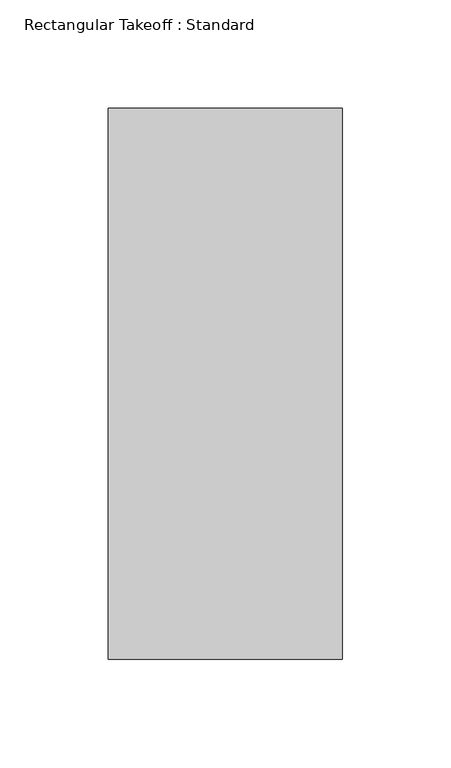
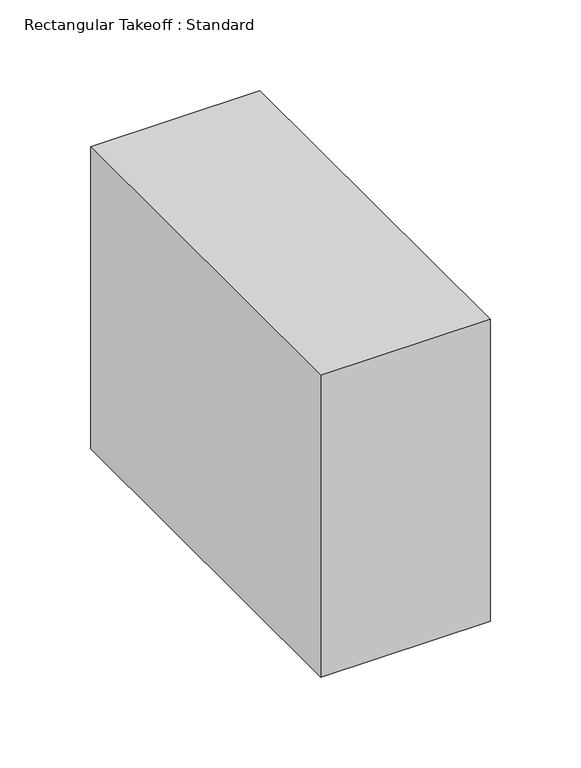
"""IFC4 building model written with IfcOpenShell, lengths in millimetres: duct fitting geometry, Rectangular Takeoff : Standard."""

import ifcopenshell
import ifcopenshell.guid

model = None  # the IFC model being written
_history = None  # IfcOwnerHistory: only IFC2X3 demands one
_inside = {}  # id of a spatial element -> (the spatial element, [elements in it])
_under = {}  # id of a project, library or spatial element -> (it, [spatial elements below it])
_declared = {}  # id of a project -> (the project, [libraries it declares])
_typed = {}  # id of a type object -> (the type object, [elements of that type])
_made_of = {}  # id of a material, layer set ... -> (it, [elements and type objects made of it])


def new_model(schema):
    """Start an empty IFC model of exactly this schema.

    Asked for "IFC4X3", IfcOpenShell would pick the latest addendum, in which some entities
    have other attributes; the version numbers below select the first issue.
    IFC2X3 requires an IfcOwnerHistory on every rooted entity: one is made here for all.
    """
    global model, _history
    if schema == "IFC4X3":
        model = ifcopenshell.file(schema_version=(4, 3, 0, 0))
    else:
        model = ifcopenshell.file(schema=schema)
    _inside.clear()
    _under.clear()
    _declared.clear()
    _typed.clear()
    _made_of.clear()
    _history = None
    if model.schema == "IFC2X3":
        org = make("IfcOrganization", Name="unknown")
        user = make(
            "IfcPersonAndOrganization",
            ThePerson=make("IfcPerson", FamilyName="unknown"),
            TheOrganization=org,
        )
        app = make(
            "IfcApplication",
            ApplicationDeveloper=org,
            Version="unknown",
            ApplicationFullName="unknown",
            ApplicationIdentifier="unknown",
        )
        _history = make(
            "IfcOwnerHistory",
            OwningUser=user,
            OwningApplication=app,
            ChangeAction="ADDED",
            CreationDate=0,
        )
    return model


def make(cls, **values):
    """One entity of the class cls with the attributes given. An attribute that is None is left unset."""
    return model.create_entity(
        cls, **{name: value for name, value in values.items() if value is not None}
    )


def rooted(cls, **values):
    """An entity with a GlobalId (a new one), such as an element, a storey or a relation."""
    return make(cls, GlobalId=ifcopenshell.guid.new(), OwnerHistory=_history, **values)


def si_unit(unit_type, name, prefix=None):
    """IfcSIUnit, for example si_unit("LENGTHUNIT", "METRE", prefix="MILLI")."""
    return make("IfcSIUnit", UnitType=unit_type, Prefix=prefix, Name=name)


def assignment(units):
    """IfcUnitAssignment: the units of a project."""
    return None if units is None else make("IfcUnitAssignment", Units=units)


def point(xyz):
    """IfcCartesianPoint."""
    return None if xyz is None else make("IfcCartesianPoint", Coordinates=xyz)


def direction(xyz):
    """IfcDirection."""
    return None if xyz is None else make("IfcDirection", DirectionRatios=xyz)


def frame(location, z_axis=None, x_axis=None):
    """IfcAxis2Placement3D, a coordinate frame: its origin and axes. An axis left out is left unset."""
    return make(
        "IfcAxis2Placement3D",
        Location=point(location),
        Axis=direction(z_axis),
        RefDirection=direction(x_axis),
    )


def origin():
    """The frame at (0, 0, 0) with its axes left unset."""
    return frame((0.0, 0.0, 0.0))


def place(relative_to, where):
    """IfcLocalPlacement: puts the frame where relative to a parent placement (None: the world)."""
    return make(
        "IfcLocalPlacement", PlacementRelTo=relative_to, RelativePlacement=where
    )


def context(
    kind, dimensions, precision=None, world=None, true_north=None, identifier=None
):
    """IfcGeometricRepresentationContext, for example the 3D "Model" context."""
    return make(
        "IfcGeometricRepresentationContext",
        ContextIdentifier=identifier,
        ContextType=kind,
        CoordinateSpaceDimension=dimensions,
        Precision=precision,
        WorldCoordinateSystem=world,
        TrueNorth=true_north,
    )


def project(units=None, contexts=None):
    """IfcProject with its units and contexts."""
    return rooted(
        "IfcProject",
        Name="project",
        RepresentationContexts=contexts,
        UnitsInContext=assignment(units),
    )


def spatial(cls, under=None, at=None, **own):
    """A site, building, storey or space (cls), placed at a placement, below another one or the project."""
    s = rooted(cls, ObjectPlacement=at, **own)
    if under is not None:
        _under.setdefault(under.id(), (under, []))[1].append(s)
    return s


def polyline(points):
    """IfcPolyline through the points."""
    return make("IfcPolyline", Points=[point(p) for p in points])


def outline(outer, holes=None, kind="AREA"):
    """IfcArbitraryClosedProfileDef: a profile drawn as a closed curve; with holes, ...WithVoids."""
    if holes is None:
        return make("IfcArbitraryClosedProfileDef", ProfileType=kind, OuterCurve=outer)
    return make(
        "IfcArbitraryProfileDefWithVoids",
        ProfileType=kind,
        OuterCurve=outer,
        InnerCurves=holes,
    )


def extrude(swept, where, along, depth):
    """IfcExtrudedAreaSolid: the profile swept, set in the frame where, extruded along a direction by depth."""
    return make(
        "IfcExtrudedAreaSolid",
        SweptArea=swept,
        Position=where,
        ExtrudedDirection=direction(along),
        Depth=depth,
    )


def shape(context_of_items, identifier, shape_type, items):
    """IfcShapeRepresentation: the items that make up one representation, for example the "Body"."""
    return make(
        "IfcShapeRepresentation",
        ContextOfItems=context_of_items,
        RepresentationIdentifier=identifier,
        RepresentationType=shape_type,
        Items=items,
    )


def source(mapping_origin, context_of_items, identifier, shape_type, items):
    """IfcRepresentationMap: a shape defined once, which mapped items show again and again."""
    return make(
        "IfcRepresentationMap",
        MappingOrigin=mapping_origin,
        MappedRepresentation=shape(context_of_items, identifier, shape_type, items),
    )


def transform(
    local_origin,
    x_axis=None,
    y_axis=None,
    z_axis=None,
    scale=None,
    scale2=None,
    scale3=None,
    uniform=True,
):
    """IfcCartesianTransformationOperator3D, or its non-uniform kind. x_axis, y_axis, z_axis: its Axis1, 2, 3."""
    if uniform:
        return make(
            "IfcCartesianTransformationOperator3D",
            Axis1=direction(x_axis),
            Axis2=direction(y_axis),
            LocalOrigin=point(local_origin),
            Scale=scale,
            Axis3=direction(z_axis),
        )
    return make(
        "IfcCartesianTransformationOperator3DnonUniform",
        Axis1=direction(x_axis),
        Axis2=direction(y_axis),
        LocalOrigin=point(local_origin),
        Scale=scale,
        Axis3=direction(z_axis),
        Scale2=scale2,
        Scale3=scale3,
    )


def mapped(mapping_source, mapping_target):
    """IfcMappedItem: shows the shape of a source again, moved by a transform."""
    return make(
        "IfcMappedItem", MappingSource=mapping_source, MappingTarget=mapping_target
    )


def made_of(thing, what):
    """Note that an element or type object is made of a material, layer set ...; save() writes the relation."""
    if what is not None:
        _made_of.setdefault(what.id(), (what, []))[1].append(thing)
    return thing


def element(
    cls,
    number,
    at=None,
    inside=None,
    cuts=None,
    type_object=None,
    material=None,
    context=None,
    identifier="Body",
    shape_type=None,
    held_by="IfcProductDefinitionShape",
    body=None,
    shapes=None,
    **own,
):
    """One element of the class cls, such as IfcWall. Its Tag is "e" and its number.

    at: its placement. inside: the storey or other place that contains it. cuts: it is an
    opening in that element (IfcRelVoidsElement). A single representation is given by context,
    identifier, shape_type and body (its items); several are given by shapes. held_by: the class
    of the entity that holds the representations. save() writes the other relations.
    """
    e = rooted(cls, Tag="e%d" % number, ObjectPlacement=at, **own)
    if body is not None:
        shapes = [shape(context, identifier, shape_type, body)]
    if shapes is not None:
        e.Representation = make(held_by, Representations=shapes)
    if inside is not None:
        _inside.setdefault(inside.id(), (inside, []))[1].append(e)
    if cuts is not None:
        rooted(
            "IfcRelVoidsElement", RelatingBuildingElement=cuts, RelatedOpeningElement=e
        )
    if type_object is not None:
        _typed.setdefault(type_object.id(), (type_object, []))[1].append(e)
    return made_of(e, material)


def aggregate(whole, parts):
    """IfcRelAggregates: a whole, such as a stair, and the parts it consists of."""
    return rooted("IfcRelAggregates", RelatingObject=whole, RelatedObjects=parts)


def save(model, path):
    """Write the relations noted so far, then the file.

    IfcRelAggregates (storeys below a building ...), IfcRelContainedInSpatialStructure (elements
    in a storey), IfcRelDefinesByType, IfcRelAssociatesMaterial and IfcRelDeclares: one each for
    every whole, place, type object, material and project.
    """
    for whole, parts in _under.values():
        aggregate(whole, parts)
    for where, things in _inside.values():
        rooted(
            "IfcRelContainedInSpatialStructure",
            RelatedElements=things,
            RelatingStructure=where,
        )
    for kind, things in _typed.values():
        rooted("IfcRelDefinesByType", RelatedObjects=things, RelatingType=kind)
    for what, things in _made_of.values():
        rooted("IfcRelAssociatesMaterial", RelatedObjects=things, RelatingMaterial=what)
    for by, libraries in _declared.values():
        rooted("IfcRelDeclares", RelatingContext=by, RelatedDefinitions=libraries)
    model.write(path)


def rectangular_takeoff_standard_c54ab2d1(model_context):
    return source(origin(), model_context, "Body", "SweptSolid", [
        extrude(outline(polyline([(-6.096, -127.0), (-6.096, 127.0), (101.6, 127.0), (101.6, -127.0), (-6.096, -127.0)])), frame((0.0, 0.0, -101.6), z_axis=(0.0, 0.0, 1.0), x_axis=(1.0, 0.0, 0.0)), (0.0, 0.0, 1.0), 203.2),
    ])


if __name__ == "__main__":
    model = new_model("IFC4")
    model_context = context("Model", 3, world=origin())
    ifc_project = project(units=[si_unit("LENGTHUNIT", "METRE", prefix="MILLI")], contexts=[model_context])
    site = spatial("IfcSite", under=ifc_project)
    building = spatial("IfcBuilding", under=site)
    placement = place(None, origin())
    rectangular_takeoff_standard_shape = rectangular_takeoff_standard_c54ab2d1(model_context)
    element("IfcDuctFitting", 1, ObjectType="Rectangular Takeoff : Standard", at=placement, inside=building, context=model_context, shape_type="MappedRepresentation", body=[
        mapped(rectangular_takeoff_standard_shape, transform((0.0, 0.0, 0.0), x_axis=(1.0, 0.0, 0.0), y_axis=(0.0, 1.0, 0.0), z_axis=(0.0, 0.0, 1.0))),
    ])
    save(model, "model.ifc")
